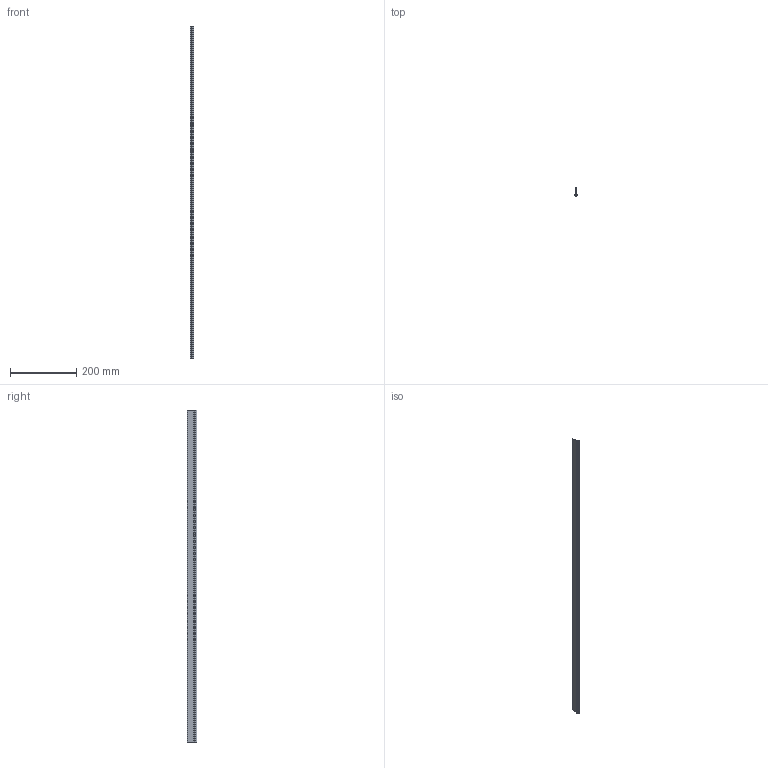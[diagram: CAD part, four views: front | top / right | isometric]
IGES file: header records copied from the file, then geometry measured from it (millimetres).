
Start section: SolidWorks IGES file using analytic representation for surfaces
Bounding box: 11.2 x 27.8 x 1000 mm (x, y, z)
Surface area: 84052.8 mm2 (no closed solid volume)
Topology: 0 solids, 0 shells, 29 faces, 300 edges, 300 vertices
Faces by surface type: bspline 19, revolution 10
